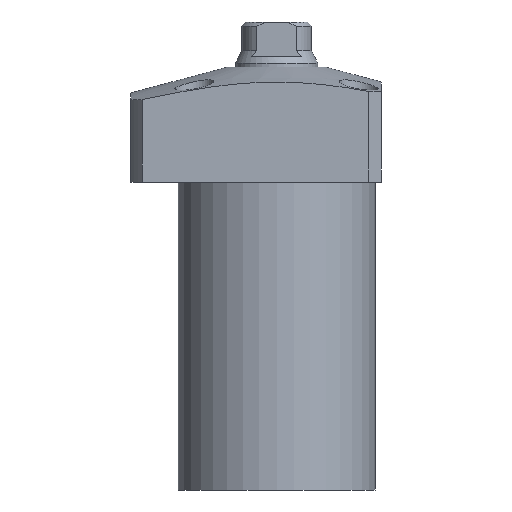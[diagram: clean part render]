
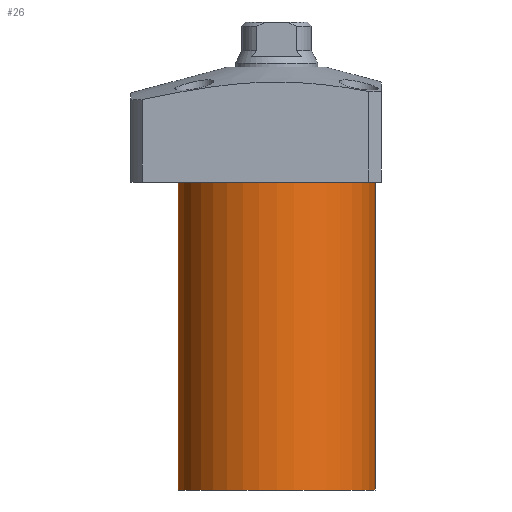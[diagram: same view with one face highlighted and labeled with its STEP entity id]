
A CAD part, front view. The second image highlights one B-rep face of the part: STEP entity #26.
In plain terms, the highlighted cylindrical face has radius 24 mm (diameter 48 mm), a partial arc.
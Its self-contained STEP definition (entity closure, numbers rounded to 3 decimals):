
#26 = ADVANCED_FACE ( 'NONE', ( #1409 ), #1012, .T. ) ;
#27 = ORIENTED_EDGE ( 'NONE', *, *, #783, .T. ) ;
#46 = VECTOR ( 'NONE', #2387, 1000. ) ;
#225 = VECTOR ( 'NONE', #1627, 1000. ) ;
#273 = CARTESIAN_POINT ( 'NONE',  ( -24., 0., -89. ) ) ;
#292 = CARTESIAN_POINT ( 'NONE',  ( 0., 0., -89. ) ) ;
#479 = LINE ( 'NONE', #1441, #225 ) ;
#494 = CARTESIAN_POINT ( 'NONE',  ( -24., 0., -14. ) ) ;
#533 = DIRECTION ( 'NONE',  ( 0., 0., -1. ) ) ;
#565 = VERTEX_POINT ( 'NONE', #273 ) ;
#630 = EDGE_CURVE ( 'NONE', #565, #1726, #1219, .T. ) ;
#669 = DIRECTION ( 'NONE',  ( 0., 0., 1. ) ) ;
#730 = VERTEX_POINT ( 'NONE', #1618 ) ;
#739 = CIRCLE ( 'NONE', #2482, 24. ) ;
#781 = ORIENTED_EDGE ( 'NONE', *, *, #1918, .T. ) ;
#783 = EDGE_CURVE ( 'NONE', #1637, #730, #479, .T. ) ;
#915 = ORIENTED_EDGE ( 'NONE', *, *, #1813, .F. ) ;
#1012 = CYLINDRICAL_SURFACE ( 'NONE', #1725, 24. ) ;
#1031 = AXIS2_PLACEMENT_3D ( 'NONE', #1737, #1347, #1928 ) ;
#1219 = LINE ( 'NONE', #2375, #46 ) ;
#1347 = DIRECTION ( 'NONE',  ( 0., 0., -1. ) ) ;
#1357 = EDGE_LOOP ( 'NONE', ( #1471, #915, #27, #781 ) ) ;
#1409 = FACE_OUTER_BOUND ( 'NONE', #1357, .T. ) ;
#1441 = CARTESIAN_POINT ( 'NONE',  ( 24., 0., -89. ) ) ;
#1471 = ORIENTED_EDGE ( 'NONE', *, *, #630, .F. ) ;
#1497 = CIRCLE ( 'NONE', #1031, 24. ) ;
#1529 = CARTESIAN_POINT ( 'NONE',  ( 0., 0., -89. ) ) ;
#1618 = CARTESIAN_POINT ( 'NONE',  ( 24., 0., -14. ) ) ;
#1627 = DIRECTION ( 'NONE',  ( 0., 0., 1. ) ) ;
#1637 = VERTEX_POINT ( 'NONE', #2420 ) ;
#1725 = AXIS2_PLACEMENT_3D ( 'NONE', #292, #669, #2025 ) ;
#1726 = VERTEX_POINT ( 'NONE', #494 ) ;
#1737 = CARTESIAN_POINT ( 'NONE',  ( 0., 0., -14. ) ) ;
#1813 = EDGE_CURVE ( 'NONE', #1637, #565, #739, .T. ) ;
#1918 = EDGE_CURVE ( 'NONE', #730, #1726, #1497, .T. ) ;
#1928 = DIRECTION ( 'NONE',  ( 1., 0., 0. ) ) ;
#2025 = DIRECTION ( 'NONE',  ( 1., 0., 0. ) ) ;
#2375 = CARTESIAN_POINT ( 'NONE',  ( -24., 0., -89. ) ) ;
#2387 = DIRECTION ( 'NONE',  ( 0., 0., 1. ) ) ;
#2420 = CARTESIAN_POINT ( 'NONE',  ( 24., 0., -89. ) ) ;
#2475 = DIRECTION ( 'NONE',  ( -1., 0., 0. ) ) ;
#2482 = AXIS2_PLACEMENT_3D ( 'NONE', #1529, #533, #2475 ) ;
